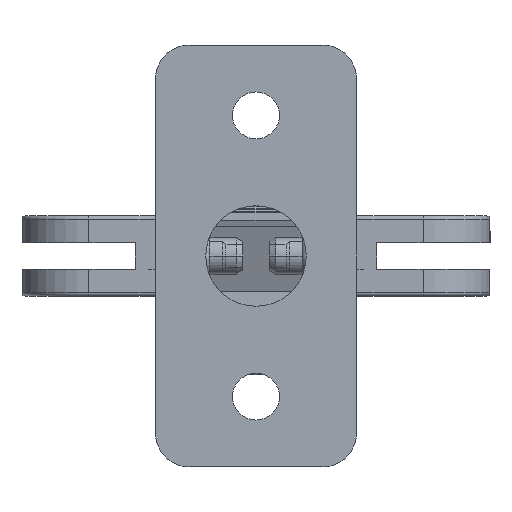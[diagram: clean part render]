
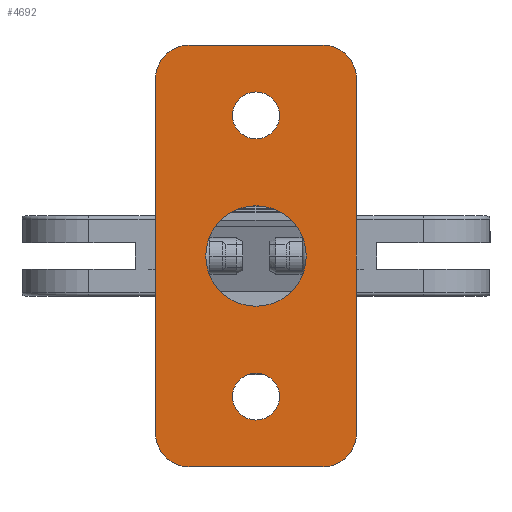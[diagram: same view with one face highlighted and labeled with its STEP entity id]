
A CAD part, front view. The second image highlights one B-rep face of the part: STEP entity #4692.
In plain terms, the highlighted planar face has unit normal (0, -1, 0).
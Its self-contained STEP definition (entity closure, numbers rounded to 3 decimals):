
#93 = DIRECTION ( 'NONE',  ( -1., 0., 0. ) ) ;
#335 = AXIS2_PLACEMENT_3D ( 'NONE', #11235, #5654, #93 ) ;
#347 = DIRECTION ( 'NONE',  ( -1., 0., 0. ) ) ;
#352 = ORIENTED_EDGE ( 'NONE', *, *, #3397, .F. ) ;
#378 = DIRECTION ( 'NONE',  ( 0., 1., 0. ) ) ;
#587 = CARTESIAN_POINT ( 'NONE',  ( -20., -8., -53. ) ) ;
#611 = CIRCLE ( 'NONE', #5491, 7. ) ;
#621 = DIRECTION ( 'NONE',  ( 0., -1., 0. ) ) ;
#681 = AXIS2_PLACEMENT_3D ( 'NONE', #3065, #9555, #3987 ) ;
#757 = CARTESIAN_POINT ( 'NONE',  ( -20., -8., 53. ) ) ;
#987 = EDGE_LOOP ( 'NONE', ( #5564, #9782 ) ) ;
#1308 = VERTEX_POINT ( 'NONE', #11995 ) ;
#1320 = VERTEX_POINT ( 'NONE', #11056 ) ;
#1329 = DIRECTION ( 'NONE',  ( 0., 1., 0. ) ) ;
#1398 = CARTESIAN_POINT ( 'NONE',  ( -7., -8., -42. ) ) ;
#1520 = DIRECTION ( 'NONE',  ( 1., 0., 0. ) ) ;
#1530 = CIRCLE ( 'NONE', #6997, 7. ) ;
#1587 = CARTESIAN_POINT ( 'NONE',  ( -20., -8., 63. ) ) ;
#1609 = EDGE_CURVE ( 'NONE', #5907, #4310, #2110, .T. ) ;
#1657 = EDGE_CURVE ( 'NONE', #10552, #1320, #3975, .T. ) ;
#1699 = DIRECTION ( 'NONE',  ( -1., 0., 0. ) ) ;
#1733 = CARTESIAN_POINT ( 'NONE',  ( 30., -8., -53. ) ) ;
#1860 = ORIENTED_EDGE ( 'NONE', *, *, #7238, .F. ) ;
#1984 = DIRECTION ( 'NONE',  ( -1., 0., 0. ) ) ;
#2110 = LINE ( 'NONE', #5019, #11699 ) ;
#2154 = AXIS2_PLACEMENT_3D ( 'NONE', #11495, #5911, #347 ) ;
#2157 = EDGE_LOOP ( 'NONE', ( #5533, #7285 ) ) ;
#2281 = DIRECTION ( 'NONE',  ( 0., 0., 1. ) ) ;
#2368 = LINE ( 'NONE', #9399, #9464 ) ;
#2535 = VERTEX_POINT ( 'NONE', #11648 ) ;
#2735 = CARTESIAN_POINT ( 'NONE',  ( 30., -8., -53. ) ) ;
#2886 = LINE ( 'NONE', #2735, #10314 ) ;
#2983 = CARTESIAN_POINT ( 'NONE',  ( 7., -8., 42. ) ) ;
#3030 = ORIENTED_EDGE ( 'NONE', *, *, #11743, .T. ) ;
#3065 = CARTESIAN_POINT ( 'NONE',  ( 0., -8., -42. ) ) ;
#3085 = VERTEX_POINT ( 'NONE', #7346 ) ;
#3270 = DIRECTION ( 'NONE',  ( 0., 1., 0. ) ) ;
#3397 = EDGE_CURVE ( 'NONE', #11204, #5907, #4640, .T. ) ;
#3555 = VERTEX_POINT ( 'NONE', #1733 ) ;
#3590 = EDGE_CURVE ( 'NONE', #1320, #3555, #2886, .T. ) ;
#3758 = ORIENTED_EDGE ( 'NONE', *, *, #4148, .F. ) ;
#3871 = FACE_BOUND ( 'NONE', #987, .T. ) ;
#3975 = CIRCLE ( 'NONE', #4574, 10. ) ;
#3987 = DIRECTION ( 'NONE',  ( -1., 0., 0. ) ) ;
#4114 = CIRCLE ( 'NONE', #5399, 10. ) ;
#4148 = EDGE_CURVE ( 'NONE', #4310, #4716, #11309, .T. ) ;
#4310 = VERTEX_POINT ( 'NONE', #7501 ) ;
#4440 = ORIENTED_EDGE ( 'NONE', *, *, #11673, .F. ) ;
#4574 = AXIS2_PLACEMENT_3D ( 'NONE', #8846, #3270, #9772 ) ;
#4640 = CIRCLE ( 'NONE', #9565, 10. ) ;
#4663 = DIRECTION ( 'NONE',  ( 0., 1., 0. ) ) ;
#4690 = VECTOR ( 'NONE', #5305, 1000. ) ;
#4692 = ADVANCED_FACE ( 'NONE', ( #3871, #11296, #6354, #11014 ), #10821, .T. ) ;
#4698 = ORIENTED_EDGE ( 'NONE', *, *, #6049, .T. ) ;
#4716 = VERTEX_POINT ( 'NONE', #9030 ) ;
#4836 = CARTESIAN_POINT ( 'NONE',  ( 20., -8., 63. ) ) ;
#4848 = DIRECTION ( 'NONE',  ( 0., 1., 0. ) ) ;
#5019 = CARTESIAN_POINT ( 'NONE',  ( -30., -8., -53. ) ) ;
#5149 = CIRCLE ( 'NONE', #9705, 15. ) ;
#5305 = DIRECTION ( 'NONE',  ( 1., 0., 0. ) ) ;
#5376 = CARTESIAN_POINT ( 'NONE',  ( -30., -8., -53. ) ) ;
#5388 = VERTEX_POINT ( 'NONE', #8251 ) ;
#5399 = AXIS2_PLACEMENT_3D ( 'NONE', #5936, #378, #6882 ) ;
#5491 = AXIS2_PLACEMENT_3D ( 'NONE', #6893, #1329, #7827 ) ;
#5533 = ORIENTED_EDGE ( 'NONE', *, *, #6742, .T. ) ;
#5564 = ORIENTED_EDGE ( 'NONE', *, *, #9980, .T. ) ;
#5654 = DIRECTION ( 'NONE',  ( 0., 1., 0. ) ) ;
#5777 = EDGE_LOOP ( 'NONE', ( #3030, #4698 ) ) ;
#5907 = VERTEX_POINT ( 'NONE', #5376 ) ;
#5911 = DIRECTION ( 'NONE',  ( 0., 1., 0. ) ) ;
#5936 = CARTESIAN_POINT ( 'NONE',  ( 20., -8., -53. ) ) ;
#6049 = EDGE_CURVE ( 'NONE', #6344, #2535, #6903, .T. ) ;
#6182 = CARTESIAN_POINT ( 'NONE',  ( -20., -8., -53. ) ) ;
#6344 = VERTEX_POINT ( 'NONE', #1398 ) ;
#6354 = FACE_BOUND ( 'NONE', #2157, .T. ) ;
#6374 = CARTESIAN_POINT ( 'NONE',  ( -15., -8., 0. ) ) ;
#6407 = EDGE_LOOP ( 'NONE', ( #352, #4440, #1860, #9116, #8442, #10895, #3758, #7309 ) ) ;
#6742 = EDGE_CURVE ( 'NONE', #1308, #8136, #9364, .T. ) ;
#6882 = DIRECTION ( 'NONE',  ( 1., 0., 0. ) ) ;
#6893 = CARTESIAN_POINT ( 'NONE',  ( 0., -8., 42. ) ) ;
#6903 = CIRCLE ( 'NONE', #335, 7. ) ;
#6997 = AXIS2_PLACEMENT_3D ( 'NONE', #10434, #4848, #11359 ) ;
#7093 = DIRECTION ( 'NONE',  ( 0., 1., 0. ) ) ;
#7125 = DIRECTION ( 'NONE',  ( 1., 0., 0. ) ) ;
#7238 = EDGE_CURVE ( 'NONE', #3555, #5388, #4114, .T. ) ;
#7264 = DIRECTION ( 'NONE',  ( 0., 1., 0. ) ) ;
#7285 = ORIENTED_EDGE ( 'NONE', *, *, #9858, .T. ) ;
#7309 = ORIENTED_EDGE ( 'NONE', *, *, #1609, .F. ) ;
#7346 = CARTESIAN_POINT ( 'NONE',  ( -7., -8., 42. ) ) ;
#7413 = AXIS2_PLACEMENT_3D ( 'NONE', #757, #7264, #1699 ) ;
#7501 = CARTESIAN_POINT ( 'NONE',  ( -30., -8., 53. ) ) ;
#7827 = DIRECTION ( 'NONE',  ( -1., 0., 0. ) ) ;
#8039 = EDGE_CURVE ( 'NONE', #4716, #10552, #9924, .T. ) ;
#8136 = VERTEX_POINT ( 'NONE', #6374 ) ;
#8251 = CARTESIAN_POINT ( 'NONE',  ( 20., -8., -63. ) ) ;
#8442 = ORIENTED_EDGE ( 'NONE', *, *, #1657, .F. ) ;
#8464 = EDGE_CURVE ( 'NONE', #3085, #10015, #611, .T. ) ;
#8846 = CARTESIAN_POINT ( 'NONE',  ( 20., -8., 53. ) ) ;
#9030 = CARTESIAN_POINT ( 'NONE',  ( -20., -8., 63. ) ) ;
#9116 = ORIENTED_EDGE ( 'NONE', *, *, #3590, .F. ) ;
#9236 = DIRECTION ( 'NONE',  ( 0., 0., -1. ) ) ;
#9364 = CIRCLE ( 'NONE', #2154, 15. ) ;
#9399 = CARTESIAN_POINT ( 'NONE',  ( -20., -8., -63. ) ) ;
#9464 = VECTOR ( 'NONE', #1984, 1000. ) ;
#9555 = DIRECTION ( 'NONE',  ( 0., 1., 0. ) ) ;
#9565 = AXIS2_PLACEMENT_3D ( 'NONE', #587, #7093, #1520 ) ;
#9570 = CARTESIAN_POINT ( 'NONE',  ( -20., -8., -63. ) ) ;
#9705 = AXIS2_PLACEMENT_3D ( 'NONE', #10232, #4663, #11173 ) ;
#9772 = DIRECTION ( 'NONE',  ( 1., 0., 0. ) ) ;
#9782 = ORIENTED_EDGE ( 'NONE', *, *, #8464, .T. ) ;
#9858 = EDGE_CURVE ( 'NONE', #8136, #1308, #5149, .T. ) ;
#9924 = LINE ( 'NONE', #1587, #4690 ) ;
#9980 = EDGE_CURVE ( 'NONE', #10015, #3085, #1530, .T. ) ;
#10015 = VERTEX_POINT ( 'NONE', #2983 ) ;
#10060 = AXIS2_PLACEMENT_3D ( 'NONE', #6182, #621, #7125 ) ;
#10232 = CARTESIAN_POINT ( 'NONE',  ( 0., -8., 0. ) ) ;
#10314 = VECTOR ( 'NONE', #9236, 1000. ) ;
#10434 = CARTESIAN_POINT ( 'NONE',  ( 0., -8., 42. ) ) ;
#10552 = VERTEX_POINT ( 'NONE', #4836 ) ;
#10821 = PLANE ( 'NONE',  #10060 ) ;
#10895 = ORIENTED_EDGE ( 'NONE', *, *, #8039, .F. ) ;
#11014 = FACE_BOUND ( 'NONE', #5777, .T. ) ;
#11056 = CARTESIAN_POINT ( 'NONE',  ( 30., -8., 53. ) ) ;
#11173 = DIRECTION ( 'NONE',  ( -1., 0., 0. ) ) ;
#11204 = VERTEX_POINT ( 'NONE', #9570 ) ;
#11235 = CARTESIAN_POINT ( 'NONE',  ( 0., -8., -42. ) ) ;
#11296 = FACE_OUTER_BOUND ( 'NONE', #6407, .T. ) ;
#11309 = CIRCLE ( 'NONE', #7413, 10. ) ;
#11359 = DIRECTION ( 'NONE',  ( -1., 0., 0. ) ) ;
#11367 = CIRCLE ( 'NONE', #681, 7. ) ;
#11495 = CARTESIAN_POINT ( 'NONE',  ( 0., -8., 0. ) ) ;
#11648 = CARTESIAN_POINT ( 'NONE',  ( 7., -8., -42. ) ) ;
#11673 = EDGE_CURVE ( 'NONE', #5388, #11204, #2368, .T. ) ;
#11699 = VECTOR ( 'NONE', #2281, 1000. ) ;
#11743 = EDGE_CURVE ( 'NONE', #2535, #6344, #11367, .T. ) ;
#11995 = CARTESIAN_POINT ( 'NONE',  ( 15., -8., 0. ) ) ;
